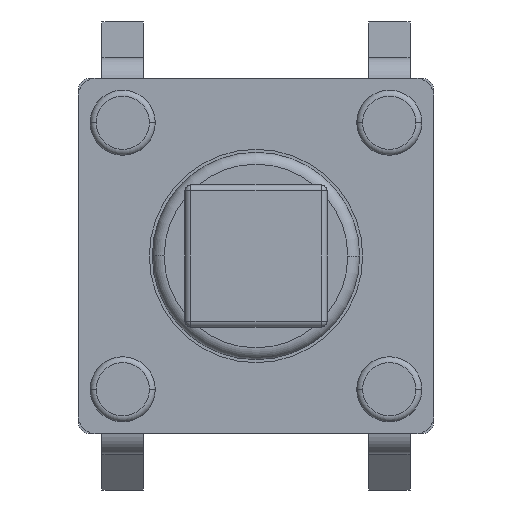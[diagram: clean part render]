
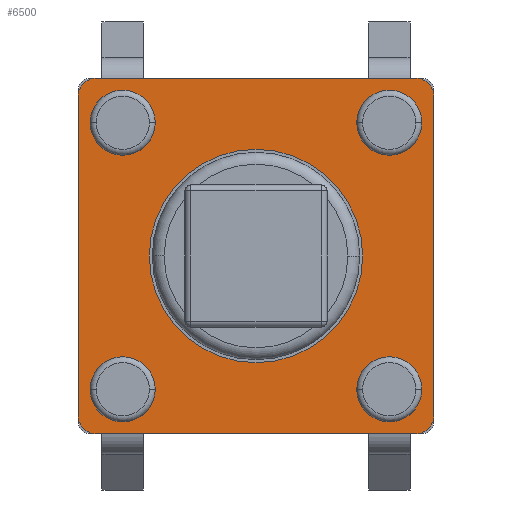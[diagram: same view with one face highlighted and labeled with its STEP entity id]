
A CAD part, front view. The second image highlights one B-rep face of the part: STEP entity #6500.
In plain terms, the highlighted planar face has unit normal (0, -1, 0).
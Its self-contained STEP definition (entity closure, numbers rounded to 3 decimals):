
#6145=CARTESIAN_POINT('',(-2.25,-0.2,-2.25));
#6146=DIRECTION('',(0.,-1.,0.));
#6147=DIRECTION('',(1.,0.,0.));
#6148=AXIS2_PLACEMENT_3D('',#6145,#6146,#6147);
#6150=CARTESIAN_POINT('',(-2.25,-0.2,-2.25));
#6151=DIRECTION('',(0.,-1.,0.));
#6152=DIRECTION('',(-1.,0.,0.));
#6153=AXIS2_PLACEMENT_3D('',#6150,#6151,#6152);
#6155=CARTESIAN_POINT('',(2.25,-0.2,-2.25));
#6156=DIRECTION('',(0.,-1.,0.));
#6157=DIRECTION('',(1.,0.,0.));
#6158=AXIS2_PLACEMENT_3D('',#6155,#6156,#6157);
#6160=CARTESIAN_POINT('',(2.25,-0.2,-2.25));
#6161=DIRECTION('',(0.,-1.,0.));
#6162=DIRECTION('',(-1.,0.,0.));
#6163=AXIS2_PLACEMENT_3D('',#6160,#6161,#6162);
#6165=CARTESIAN_POINT('',(-2.25,-0.2,2.25));
#6166=DIRECTION('',(0.,-1.,0.));
#6167=DIRECTION('',(1.,0.,0.));
#6168=AXIS2_PLACEMENT_3D('',#6165,#6166,#6167);
#6170=CARTESIAN_POINT('',(-2.25,-0.2,2.25));
#6171=DIRECTION('',(0.,-1.,0.));
#6172=DIRECTION('',(-1.,0.,0.));
#6173=AXIS2_PLACEMENT_3D('',#6170,#6171,#6172);
#6175=CARTESIAN_POINT('',(2.25,-0.2,2.25));
#6176=DIRECTION('',(0.,-1.,0.));
#6177=DIRECTION('',(1.,0.,0.));
#6178=AXIS2_PLACEMENT_3D('',#6175,#6176,#6177);
#6180=CARTESIAN_POINT('',(2.25,-0.2,2.25));
#6181=DIRECTION('',(0.,-1.,0.));
#6182=DIRECTION('',(-1.,0.,0.));
#6183=AXIS2_PLACEMENT_3D('',#6180,#6181,#6182);
#6185=CARTESIAN_POINT('',(0.,-0.2,0.));
#6186=DIRECTION('',(0.,-1.,0.));
#6187=DIRECTION('',(1.,0.,0.));
#6188=AXIS2_PLACEMENT_3D('',#6185,#6186,#6187);
#6190=CARTESIAN_POINT('',(0.,-0.2,0.));
#6191=DIRECTION('',(0.,-1.,0.));
#6192=DIRECTION('',(-1.,0.,0.));
#6193=AXIS2_PLACEMENT_3D('',#6190,#6191,#6192);
#6195=CARTESIAN_POINT('',(2.7,-0.2,-2.7));
#6196=DIRECTION('',(0.,-1.,0.));
#6197=DIRECTION('',(0.,0.,-1.));
#6198=AXIS2_PLACEMENT_3D('',#6195,#6196,#6197);
#6200=DIRECTION('',(-1.,0.,0.));
#6201=VECTOR('',#6200,5.4);
#6202=CARTESIAN_POINT('',(2.7,-0.2,-3.));
#6203=LINE('',#6202,#6201);
#6204=CARTESIAN_POINT('',(-2.7,-0.2,-2.7));
#6205=DIRECTION('',(0.,-1.,0.));
#6206=DIRECTION('',(-1.,0.,0.));
#6207=AXIS2_PLACEMENT_3D('',#6204,#6205,#6206);
#6209=DIRECTION('',(0.,0.,1.));
#6210=VECTOR('',#6209,5.4);
#6211=CARTESIAN_POINT('',(-3.,-0.2,-2.7));
#6212=LINE('',#6211,#6210);
#6213=CARTESIAN_POINT('',(-2.7,-0.2,2.7));
#6214=DIRECTION('',(0.,-1.,0.));
#6215=DIRECTION('',(0.,0.,1.));
#6216=AXIS2_PLACEMENT_3D('',#6213,#6214,#6215);
#6218=DIRECTION('',(1.,0.,0.));
#6219=VECTOR('',#6218,5.4);
#6220=CARTESIAN_POINT('',(-2.7,-0.2,3.));
#6221=LINE('',#6220,#6219);
#6222=CARTESIAN_POINT('',(2.7,-0.2,2.7));
#6223=DIRECTION('',(0.,-1.,0.));
#6224=DIRECTION('',(1.,0.,0.));
#6225=AXIS2_PLACEMENT_3D('',#6222,#6223,#6224);
#6227=DIRECTION('',(0.,0.,-1.));
#6228=VECTOR('',#6227,5.4);
#6229=CARTESIAN_POINT('',(3.,-0.2,2.7));
#6230=LINE('',#6229,#6228);
#6311=CARTESIAN_POINT('',(-2.,-0.2,-2.25));
#6312=CARTESIAN_POINT('',(-2.5,-0.2,-2.25));
#6313=VERTEX_POINT('',#6311);
#6314=VERTEX_POINT('',#6312);
#6315=CARTESIAN_POINT('',(2.5,-0.2,-2.25));
#6316=CARTESIAN_POINT('',(2.,-0.2,-2.25));
#6317=VERTEX_POINT('',#6315);
#6318=VERTEX_POINT('',#6316);
#6319=CARTESIAN_POINT('',(-2.,-0.2,2.25));
#6320=CARTESIAN_POINT('',(-2.5,-0.2,2.25));
#6321=VERTEX_POINT('',#6319);
#6322=VERTEX_POINT('',#6320);
#6323=CARTESIAN_POINT('',(2.5,-0.2,2.25));
#6324=CARTESIAN_POINT('',(2.,-0.2,2.25));
#6325=VERTEX_POINT('',#6323);
#6326=VERTEX_POINT('',#6324);
#6331=CARTESIAN_POINT('',(2.7,-0.2,-3.));
#6332=VERTEX_POINT('',#6331);
#6333=CARTESIAN_POINT('',(3.,-0.2,-2.7));
#6334=VERTEX_POINT('',#6333);
#6339=CARTESIAN_POINT('',(3.,-0.2,2.7));
#6340=VERTEX_POINT('',#6339);
#6341=CARTESIAN_POINT('',(2.7,-0.2,3.));
#6342=VERTEX_POINT('',#6341);
#6347=CARTESIAN_POINT('',(-3.,-0.2,-2.7));
#6348=VERTEX_POINT('',#6347);
#6349=CARTESIAN_POINT('',(-2.7,-0.2,-3.));
#6350=VERTEX_POINT('',#6349);
#6355=CARTESIAN_POINT('',(-2.7,-0.2,3.));
#6356=VERTEX_POINT('',#6355);
#6357=CARTESIAN_POINT('',(-3.,-0.2,2.7));
#6358=VERTEX_POINT('',#6357);
#6363=CARTESIAN_POINT('',(1.8,-0.2,0.));
#6364=CARTESIAN_POINT('',(-1.8,-0.2,0.));
#6365=VERTEX_POINT('',#6363);
#6366=VERTEX_POINT('',#6364);
#6449=CARTESIAN_POINT('',(0.,-0.2,0.));
#6450=DIRECTION('',(0.,1.,0.));
#6451=DIRECTION('',(1.,0.,0.));
#6452=AXIS2_PLACEMENT_3D('',#6449,#6450,#6451);
#6453=PLANE('',#6452);
#6455=ORIENTED_EDGE('',*,*,#6454,.F.);
#6457=ORIENTED_EDGE('',*,*,#6456,.T.);
#6459=ORIENTED_EDGE('',*,*,#6458,.F.);
#6461=ORIENTED_EDGE('',*,*,#6460,.T.);
#6463=ORIENTED_EDGE('',*,*,#6462,.F.);
#6465=ORIENTED_EDGE('',*,*,#6464,.T.);
#6467=ORIENTED_EDGE('',*,*,#6466,.F.);
#6469=ORIENTED_EDGE('',*,*,#6468,.T.);
#6470=EDGE_LOOP('',(#6455,#6457,#6459,#6461,#6463,#6465,#6467,#6469));
#6471=FACE_OUTER_BOUND('',#6470,.F.);
#6473=ORIENTED_EDGE('',*,*,#6472,.T.);
#6475=ORIENTED_EDGE('',*,*,#6474,.T.);
#6476=EDGE_LOOP('',(#6473,#6475));
#6477=FACE_BOUND('',#6476,.F.);
#6479=ORIENTED_EDGE('',*,*,#6478,.T.);
#6481=ORIENTED_EDGE('',*,*,#6480,.T.);
#6482=EDGE_LOOP('',(#6479,#6481));
#6483=FACE_BOUND('',#6482,.F.);
#6485=ORIENTED_EDGE('',*,*,#6484,.T.);
#6487=ORIENTED_EDGE('',*,*,#6486,.T.);
#6488=EDGE_LOOP('',(#6485,#6487));
#6489=FACE_BOUND('',#6488,.F.);
#6491=ORIENTED_EDGE('',*,*,#6490,.T.);
#6493=ORIENTED_EDGE('',*,*,#6492,.T.);
#6494=EDGE_LOOP('',(#6491,#6493));
#6495=FACE_BOUND('',#6494,.F.);
#6496=ORIENTED_EDGE('',*,*,#6429,.T.);
#6497=ORIENTED_EDGE('',*,*,#6443,.T.);
#6498=EDGE_LOOP('',(#6496,#6497));
#6499=FACE_BOUND('',#6498,.F.);
#6149=CIRCLE('',#6148,0.25);
#6154=CIRCLE('',#6153,0.25);
#6159=CIRCLE('',#6158,0.25);
#6164=CIRCLE('',#6163,0.25);
#6169=CIRCLE('',#6168,0.25);
#6174=CIRCLE('',#6173,0.25);
#6179=CIRCLE('',#6178,0.25);
#6184=CIRCLE('',#6183,0.25);
#6189=CIRCLE('',#6188,1.8);
#6194=CIRCLE('',#6193,1.8);
#6199=CIRCLE('',#6198,0.3);
#6208=CIRCLE('',#6207,0.3);
#6217=CIRCLE('',#6216,0.3);
#6226=CIRCLE('',#6225,0.3);
#6429=EDGE_CURVE('',#6313,#6314,#6149,.T.);
#6443=EDGE_CURVE('',#6314,#6313,#6154,.T.);
#6454=EDGE_CURVE('',#6332,#6334,#6199,.T.);
#6456=EDGE_CURVE('',#6332,#6350,#6203,.T.);
#6458=EDGE_CURVE('',#6348,#6350,#6208,.T.);
#6460=EDGE_CURVE('',#6348,#6358,#6212,.T.);
#6462=EDGE_CURVE('',#6356,#6358,#6217,.T.);
#6464=EDGE_CURVE('',#6356,#6342,#6221,.T.);
#6466=EDGE_CURVE('',#6340,#6342,#6226,.T.);
#6468=EDGE_CURVE('',#6340,#6334,#6230,.T.);
#6472=EDGE_CURVE('',#6317,#6318,#6159,.T.);
#6474=EDGE_CURVE('',#6318,#6317,#6164,.T.);
#6478=EDGE_CURVE('',#6321,#6322,#6169,.T.);
#6480=EDGE_CURVE('',#6322,#6321,#6174,.T.);
#6484=EDGE_CURVE('',#6325,#6326,#6179,.T.);
#6486=EDGE_CURVE('',#6326,#6325,#6184,.T.);
#6490=EDGE_CURVE('',#6365,#6366,#6189,.T.);
#6492=EDGE_CURVE('',#6366,#6365,#6194,.T.);
#6500=ADVANCED_FACE('',(#6471,#6477,#6483,#6489,#6495,#6499),#6453,.F.);
